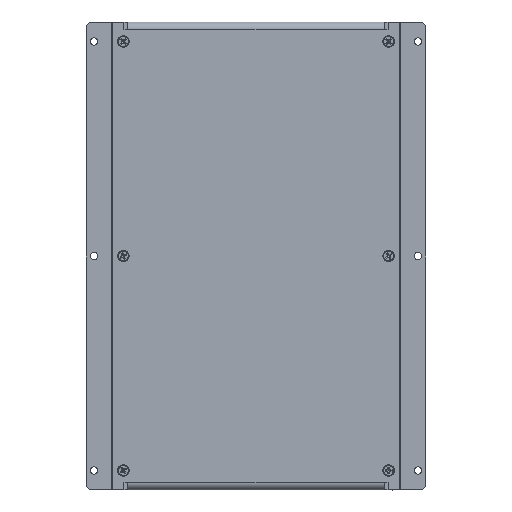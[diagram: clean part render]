
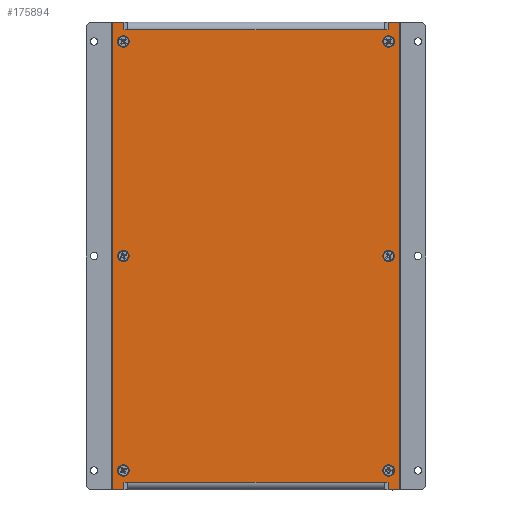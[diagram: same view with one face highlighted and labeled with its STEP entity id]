
A CAD part, front view. The second image highlights one B-rep face of the part: STEP entity #175894.
In plain terms, the highlighted planar face has unit normal (0, -1, 0).
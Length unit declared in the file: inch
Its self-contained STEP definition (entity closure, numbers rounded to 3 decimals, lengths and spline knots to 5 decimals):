
#175427=CARTESIAN_POINT('',(-2.58858,0.,-0.15748));
#175428=VERTEX_POINT('',#175427);
#175436=CARTESIAN_POINT('',(2.58858,0.,-0.15748));
#175437=VERTEX_POINT('',#175436);
#175438=CARTESIAN_POINT('',(2.58858,0.,-0.15748));
#175439=DIRECTION('',(-1.0,0.0,0.0));
#175440=VECTOR('',#175439,5.17717);
#175441=LINE('',#175438,#175440);
#175442=EDGE_CURVE('',#175437,#175428,#175441,.T.);
#175535=CARTESIAN_POINT('',(2.58858,0.,-9.29134));
#175536=VERTEX_POINT('',#175535);
#175544=CARTESIAN_POINT('',(-2.58858,0.,-9.29134));
#175545=VERTEX_POINT('',#175544);
#175546=CARTESIAN_POINT('',(-2.58858,0.,-9.29134));
#175547=DIRECTION('',(1.0,0.0,0.0));
#175548=VECTOR('',#175547,5.17717);
#175549=LINE('',#175546,#175548);
#175550=EDGE_CURVE('',#175545,#175536,#175549,.T.);
#175643=CARTESIAN_POINT('',(2.66732,0.,-0.15748));
#175644=VERTEX_POINT('',#175643);
#175645=CARTESIAN_POINT('',(2.66732,0.,-0.15748));
#175646=DIRECTION('',(-1.0,0.0,0.0));
#175647=VECTOR('',#175646,0.07874);
#175648=LINE('',#175645,#175647);
#175649=EDGE_CURVE('',#175644,#175437,#175648,.T.);
#175675=CARTESIAN_POINT('',(-2.66732,0.,-9.29134));
#175676=VERTEX_POINT('',#175675);
#175677=CARTESIAN_POINT('',(-2.66732,0.,-9.29134));
#175678=DIRECTION('',(1.0,0.0,0.0));
#175679=VECTOR('',#175678,0.07874);
#175680=LINE('',#175677,#175679);
#175681=EDGE_CURVE('',#175676,#175545,#175680,.T.);
#175706=CARTESIAN_POINT('',(-2.66732,0.,-9.44882));
#175707=VERTEX_POINT('',#175706);
#175708=CARTESIAN_POINT('',(-2.66732,0.,-9.44882));
#175709=DIRECTION('',(0.0,0.0,1.0));
#175710=VECTOR('',#175709,0.15748);
#175711=LINE('',#175708,#175710);
#175712=EDGE_CURVE('',#175707,#175676,#175711,.T.);
#175732=CARTESIAN_POINT('',(0.,0.,-4.72441));
#175733=DIRECTION('',(0.0,-1.0,0.0));
#175734=DIRECTION('',(1.0,0.0,0.0));
#175735=AXIS2_PLACEMENT_3D('',#175732,#175733,#175734);
#175736=PLANE('',#175735);
#175737=ORIENTED_EDGE('',*,*,#175712,.T.);
#175738=ORIENTED_EDGE('',*,*,#175681,.T.);
#175739=ORIENTED_EDGE('',*,*,#175550,.T.);
#175740=CARTESIAN_POINT('',(2.66732,0.,-9.29134));
#175741=VERTEX_POINT('',#175740);
#175742=CARTESIAN_POINT('',(2.58858,0.,-9.29134));
#175743=DIRECTION('',(1.0,0.0,0.0));
#175744=VECTOR('',#175743,0.07874);
#175745=LINE('',#175742,#175744);
#175746=EDGE_CURVE('',#175536,#175741,#175745,.T.);
#175747=ORIENTED_EDGE('',*,*,#175746,.T.);
#175748=CARTESIAN_POINT('',(2.66732,0.,-9.44882));
#175749=VERTEX_POINT('',#175748);
#175750=CARTESIAN_POINT('',(2.66732,0.,-9.29134));
#175751=DIRECTION('',(0.0,0.0,-1.0));
#175752=VECTOR('',#175751,0.15748);
#175753=LINE('',#175750,#175752);
#175754=EDGE_CURVE('',#175741,#175749,#175753,.T.);
#175755=ORIENTED_EDGE('',*,*,#175754,.T.);
#175756=CARTESIAN_POINT('',(2.90354,0.,-9.44882));
#175757=VERTEX_POINT('',#175756);
#175758=CARTESIAN_POINT('',(2.90354,0.,-9.44882));
#175759=DIRECTION('',(-1.0,0.0,0.0));
#175760=VECTOR('',#175759,0.23622);
#175761=LINE('',#175758,#175760);
#175762=EDGE_CURVE('',#175757,#175749,#175761,.T.);
#175763=ORIENTED_EDGE('',*,*,#175762,.F.);
#175764=CARTESIAN_POINT('',(2.90354,0.,0.));
#175765=VERTEX_POINT('',#175764);
#175766=CARTESIAN_POINT('',(2.90354,0.,0.));
#175767=DIRECTION('',(0.0,0.0,-1.0));
#175768=VECTOR('',#175767,9.44882);
#175769=LINE('',#175766,#175768);
#175770=EDGE_CURVE('',#175765,#175757,#175769,.T.);
#175771=ORIENTED_EDGE('',*,*,#175770,.F.);
#175772=CARTESIAN_POINT('',(2.66732,0.,0.));
#175773=VERTEX_POINT('',#175772);
#175774=CARTESIAN_POINT('',(2.66732,0.,0.));
#175775=DIRECTION('',(1.0,0.0,0.0));
#175776=VECTOR('',#175775,0.23622);
#175777=LINE('',#175774,#175776);
#175778=EDGE_CURVE('',#175773,#175765,#175777,.T.);
#175779=ORIENTED_EDGE('',*,*,#175778,.F.);
#175780=CARTESIAN_POINT('',(2.66732,0.,0.));
#175781=DIRECTION('',(0.0,0.0,-1.0));
#175782=VECTOR('',#175781,0.15748);
#175783=LINE('',#175780,#175782);
#175784=EDGE_CURVE('',#175773,#175644,#175783,.T.);
#175785=ORIENTED_EDGE('',*,*,#175784,.T.);
#175786=ORIENTED_EDGE('',*,*,#175649,.T.);
#175787=ORIENTED_EDGE('',*,*,#175442,.T.);
#175788=CARTESIAN_POINT('',(-2.66732,0.,-0.15748));
#175789=VERTEX_POINT('',#175788);
#175790=CARTESIAN_POINT('',(-2.58858,0.,-0.15748));
#175791=DIRECTION('',(-1.0,0.0,0.0));
#175792=VECTOR('',#175791,0.07874);
#175793=LINE('',#175790,#175792);
#175794=EDGE_CURVE('',#175428,#175789,#175793,.T.);
#175795=ORIENTED_EDGE('',*,*,#175794,.T.);
#175796=CARTESIAN_POINT('',(-2.66732,0.,0.));
#175797=VERTEX_POINT('',#175796);
#175798=CARTESIAN_POINT('',(-2.66732,0.,-0.15748));
#175799=DIRECTION('',(0.0,0.0,1.0));
#175800=VECTOR('',#175799,0.15748);
#175801=LINE('',#175798,#175800);
#175802=EDGE_CURVE('',#175789,#175797,#175801,.T.);
#175803=ORIENTED_EDGE('',*,*,#175802,.T.);
#175804=CARTESIAN_POINT('',(-2.90354,0.,0.));
#175805=VERTEX_POINT('',#175804);
#175806=CARTESIAN_POINT('',(-2.90354,0.,0.));
#175807=DIRECTION('',(1.0,0.0,0.0));
#175808=VECTOR('',#175807,0.23622);
#175809=LINE('',#175806,#175808);
#175810=EDGE_CURVE('',#175805,#175797,#175809,.T.);
#175811=ORIENTED_EDGE('',*,*,#175810,.F.);
#175812=CARTESIAN_POINT('',(-2.90354,0.,-9.44882));
#175813=VERTEX_POINT('',#175812);
#175814=CARTESIAN_POINT('',(-2.90354,0.,-9.44882));
#175815=DIRECTION('',(0.0,0.0,1.0));
#175816=VECTOR('',#175815,9.44882);
#175817=LINE('',#175814,#175816);
#175818=EDGE_CURVE('',#175813,#175805,#175817,.T.);
#175819=ORIENTED_EDGE('',*,*,#175818,.F.);
#175820=CARTESIAN_POINT('',(-2.66732,0.,-9.44882));
#175821=DIRECTION('',(-1.0,0.0,0.0));
#175822=VECTOR('',#175821,0.23622);
#175823=LINE('',#175820,#175822);
#175824=EDGE_CURVE('',#175707,#175813,#175823,.T.);
#175825=ORIENTED_EDGE('',*,*,#175824,.F.);
#175826=EDGE_LOOP('',(#175737,#175738,#175739,#175747,#175755,#175763,#175771,#175779,#175785,#175786,#175787,#175795,#175803,#175811,#175819,#175825));
#175827=FACE_OUTER_BOUND('',#175826,.T.);
#175828=CARTESIAN_POINT('',(-2.56102,0.,-0.3937));
#175829=VERTEX_POINT('',#175828);
#175830=CARTESIAN_POINT('',(-2.67717,0.,-0.3937));
#175831=DIRECTION('',(0.0,1.0,0.0));
#175832=DIRECTION('',(1.0,0.0,0.0));
#175833=AXIS2_PLACEMENT_3D('',#175830,#175831,#175832);
#175834=CIRCLE('',#175833,0.11614);
#175835=EDGE_CURVE('',#175829,#175829,#175834,.T.);
#175836=ORIENTED_EDGE('',*,*,#175835,.T.);
#175837=EDGE_LOOP('',(#175836));
#175838=FACE_BOUND('',#175837,.T.);
#175839=CARTESIAN_POINT('',(2.79331,0.,-0.3937));
#175840=VERTEX_POINT('',#175839);
#175841=CARTESIAN_POINT('',(2.67717,0.,-0.3937));
#175842=DIRECTION('',(0.0,1.0,0.0));
#175843=DIRECTION('',(1.0,0.0,0.0));
#175844=AXIS2_PLACEMENT_3D('',#175841,#175842,#175843);
#175845=CIRCLE('',#175844,0.11614);
#175846=EDGE_CURVE('',#175840,#175840,#175845,.T.);
#175847=ORIENTED_EDGE('',*,*,#175846,.T.);
#175848=EDGE_LOOP('',(#175847));
#175849=FACE_BOUND('',#175848,.T.);
#175850=CARTESIAN_POINT('',(2.79331,0.,-4.72441));
#175851=VERTEX_POINT('',#175850);
#175852=CARTESIAN_POINT('',(2.67717,0.,-4.72441));
#175853=DIRECTION('',(0.0,1.0,0.0));
#175854=DIRECTION('',(1.0,0.0,0.0));
#175855=AXIS2_PLACEMENT_3D('',#175852,#175853,#175854);
#175856=CIRCLE('',#175855,0.11614);
#175857=EDGE_CURVE('',#175851,#175851,#175856,.T.);
#175858=ORIENTED_EDGE('',*,*,#175857,.T.);
#175859=EDGE_LOOP('',(#175858));
#175860=FACE_BOUND('',#175859,.T.);
#175861=CARTESIAN_POINT('',(-2.56102,0.,-4.72441));
#175862=VERTEX_POINT('',#175861);
#175863=CARTESIAN_POINT('',(-2.67717,0.,-4.72441));
#175864=DIRECTION('',(0.0,1.0,0.0));
#175865=DIRECTION('',(1.0,0.0,0.0));
#175866=AXIS2_PLACEMENT_3D('',#175863,#175864,#175865);
#175867=CIRCLE('',#175866,0.11614);
#175868=EDGE_CURVE('',#175862,#175862,#175867,.T.);
#175869=ORIENTED_EDGE('',*,*,#175868,.T.);
#175870=EDGE_LOOP('',(#175869));
#175871=FACE_BOUND('',#175870,.T.);
#175872=CARTESIAN_POINT('',(-2.56102,0.,-9.05512));
#175873=VERTEX_POINT('',#175872);
#175874=CARTESIAN_POINT('',(-2.67717,0.,-9.05512));
#175875=DIRECTION('',(0.0,1.0,0.0));
#175876=DIRECTION('',(1.0,0.0,0.0));
#175877=AXIS2_PLACEMENT_3D('',#175874,#175875,#175876);
#175878=CIRCLE('',#175877,0.11614);
#175879=EDGE_CURVE('',#175873,#175873,#175878,.T.);
#175880=ORIENTED_EDGE('',*,*,#175879,.T.);
#175881=EDGE_LOOP('',(#175880));
#175882=FACE_BOUND('',#175881,.T.);
#175883=CARTESIAN_POINT('',(2.79331,0.,-9.05512));
#175884=VERTEX_POINT('',#175883);
#175885=CARTESIAN_POINT('',(2.67717,0.,-9.05512));
#175886=DIRECTION('',(0.0,1.0,0.0));
#175887=DIRECTION('',(1.0,0.0,0.0));
#175888=AXIS2_PLACEMENT_3D('',#175885,#175886,#175887);
#175889=CIRCLE('',#175888,0.11614);
#175890=EDGE_CURVE('',#175884,#175884,#175889,.T.);
#175891=ORIENTED_EDGE('',*,*,#175890,.T.);
#175892=EDGE_LOOP('',(#175891));
#175893=FACE_BOUND('',#175892,.T.);
#175894=ADVANCED_FACE('',(#175827,#175838,#175849,#175860,#175871,#175882,#175893),#175736,.T.);
